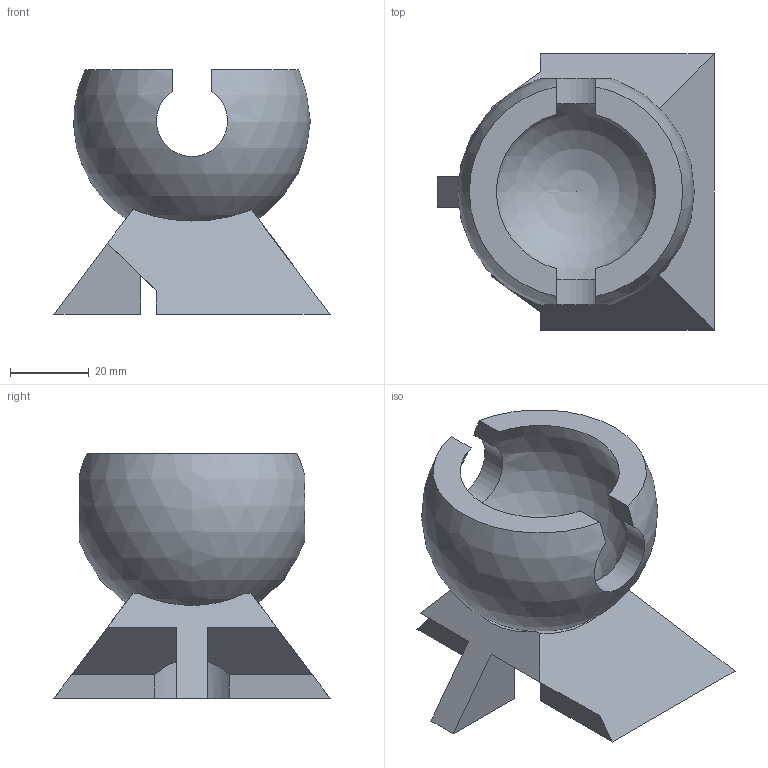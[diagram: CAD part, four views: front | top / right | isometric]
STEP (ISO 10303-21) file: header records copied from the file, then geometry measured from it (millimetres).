
FILE_DESCRIPTION(/* description */ (''),/* implementation_level */ '2;1');
FILE_NAME(/* name */ '730709R1001 v0.step',/* time_stamp */ '2023-07-14T11:54:55+09:00',/* author */ (''),/* organization */ (''),/* preprocessor_version */ 'ST-DEVELOPER v19.2',/* originating_system */ 'Autodesk Translation Framework v12.6.0.85',/* authorisation */ '');
FILE_SCHEMA (('AUTOMOTIVE_DESIGN { 1 0 10303 214 3 1 1 }'));
Length unit declared in the file: millimetre
Products named in the file (1): 730709R1001
Bounding box: 70 x 70 x 62 mm (x, y, z)
Volume: 82149.8 mm3; surface area: 25822.8 mm2
Topology: 2 solids, 2 shells, 32 faces, 87 edges, 57 vertices
Faces by surface type: plane 21, cylinder 9, sphere 2
Full cylindrical faces by diameter (mm): 12 x2, 26 x1
Entity records: 1104 total; most frequent: CARTESIAN_POINT 249, DIRECTION 174, ORIENTED_EDGE 172, EDGE_CURVE 86, AXIS2_PLACEMENT_3D 64, VERTEX_POINT 57, LINE 46, VECTOR 46
